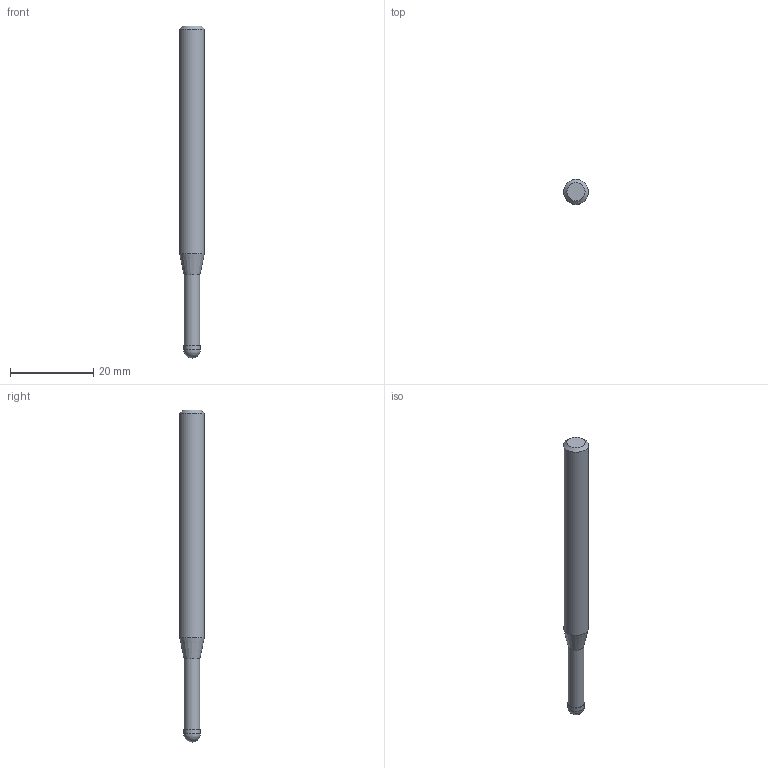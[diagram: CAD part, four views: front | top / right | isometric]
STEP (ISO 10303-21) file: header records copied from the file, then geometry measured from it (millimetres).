
FILE_DESCRIPTION((''),'2;1');
FILE_NAME('C:\Users\nsx150\AppData\Local\Temp\Mastercam 2021\EUJSUNXURU\TEMP.step','2021-04-22T10:23:00',(''),(''),'STEP Write','Mastercam 2021 ... CNC Software, Inc.','');
FILE_SCHEMA(('AUTOMOTIVE_DESIGN'));
Length unit declared in the file: millimetre
Products named in the file (1): None
Bounding box: 6 x 6 x 80 mm (x, y, z)
Volume: 1866 mm3; surface area: 1398 mm2
Topology: 2 solids, 2 shells, 9 faces, 14 edges, 8 vertices
Faces by surface type: plane 3, cylinder 3, cone 2, sphere 1
Full cylindrical faces by diameter (mm): 3.8 x1, 4 x1, 6 x1
Entity records: 211 total; most frequent: DIRECTION 36, CARTESIAN_POINT 25, AXIS2_PLACEMENT_3D 18, ORIENTED_EDGE 14, EDGE_LOOP 14, STYLED_ITEM 12, ADVANCED_FACE 9, FACE_BOUND 8
